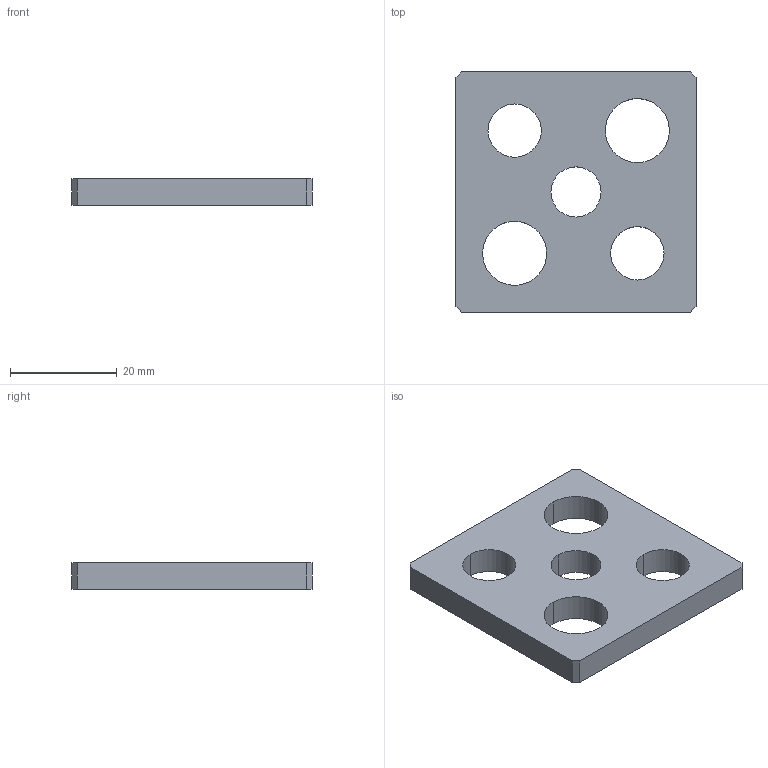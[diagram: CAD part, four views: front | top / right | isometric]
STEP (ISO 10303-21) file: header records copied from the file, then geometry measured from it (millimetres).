
FILE_DESCRIPTION(/* description */ (''),/* implementation_level */ '2;1');
FILE_NAME(/* name */ '3d_mdsp13_04297_r00.stp',/* time_stamp */ '2011-01-10T14:13:54+09:00',/* author */ ('MISUMI'),/* organization */ (''),/* preprocessor_version */ 'ST-DEVELOPER v11',/* originating_system */ 'UGS - NX 5.0',/* authorisation */ '');
FILE_SCHEMA (('CONFIG_CONTROL_DESIGN'));
Length unit declared in the file: millimetre
Products named in the file (1): 3d_mdsp13_04297_r00
Bounding box: 45 x 45 x 5 mm (x, y, z)
Volume: 7851.6 mm3; surface area: 4867.7 mm2
Topology: 1 solids, 1 shells, 20 faces, 54 edges, 36 vertices
Faces by surface type: plane 10, cylinder 10
Entity records: 744 total; most frequent: DIRECTION 116, CARTESIAN_POINT 111, ORIENTED_EDGE 108, EDGE_CURVE 54, AXIS2_PLACEMENT_3D 41, VERTEX_POINT 36, LINE 34, VECTOR 34
